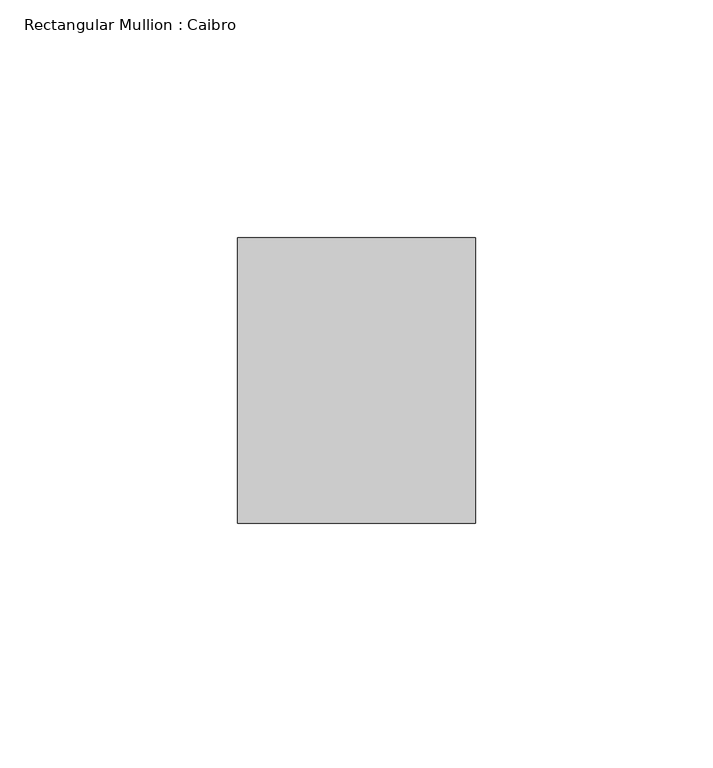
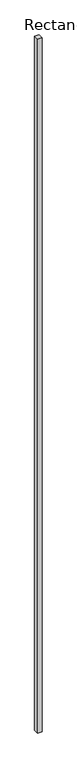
"""IFC4 building model written with IfcOpenShell, lengths in millimetres: member geometry, Rectangular Mullion : Caibro."""

import ifcopenshell
import ifcopenshell.guid

model = None  # the IFC model being written
_history = None  # IfcOwnerHistory: only IFC2X3 demands one
_inside = {}  # id of a spatial element -> (the spatial element, [elements in it])
_under = {}  # id of a project, library or spatial element -> (it, [spatial elements below it])
_declared = {}  # id of a project -> (the project, [libraries it declares])
_typed = {}  # id of a type object -> (the type object, [elements of that type])
_made_of = {}  # id of a material, layer set ... -> (it, [elements and type objects made of it])


def new_model(schema):
    """Start an empty IFC model of exactly this schema.

    Asked for "IFC4X3", IfcOpenShell would pick the latest addendum, in which some entities
    have other attributes; the version numbers below select the first issue.
    IFC2X3 requires an IfcOwnerHistory on every rooted entity: one is made here for all.
    """
    global model, _history
    if schema == "IFC4X3":
        model = ifcopenshell.file(schema_version=(4, 3, 0, 0))
    else:
        model = ifcopenshell.file(schema=schema)
    _inside.clear()
    _under.clear()
    _declared.clear()
    _typed.clear()
    _made_of.clear()
    _history = None
    if model.schema == "IFC2X3":
        org = make("IfcOrganization", Name="unknown")
        user = make(
            "IfcPersonAndOrganization",
            ThePerson=make("IfcPerson", FamilyName="unknown"),
            TheOrganization=org,
        )
        app = make(
            "IfcApplication",
            ApplicationDeveloper=org,
            Version="unknown",
            ApplicationFullName="unknown",
            ApplicationIdentifier="unknown",
        )
        _history = make(
            "IfcOwnerHistory",
            OwningUser=user,
            OwningApplication=app,
            ChangeAction="ADDED",
            CreationDate=0,
        )
    return model


def make(cls, **values):
    """One entity of the class cls with the attributes given. An attribute that is None is left unset."""
    return model.create_entity(
        cls, **{name: value for name, value in values.items() if value is not None}
    )


def rooted(cls, **values):
    """An entity with a GlobalId (a new one), such as an element, a storey or a relation."""
    return make(cls, GlobalId=ifcopenshell.guid.new(), OwnerHistory=_history, **values)


def si_unit(unit_type, name, prefix=None):
    """IfcSIUnit, for example si_unit("LENGTHUNIT", "METRE", prefix="MILLI")."""
    return make("IfcSIUnit", UnitType=unit_type, Prefix=prefix, Name=name)


def assignment(units):
    """IfcUnitAssignment: the units of a project."""
    return None if units is None else make("IfcUnitAssignment", Units=units)


def point(xyz):
    """IfcCartesianPoint."""
    return None if xyz is None else make("IfcCartesianPoint", Coordinates=xyz)


def direction(xyz):
    """IfcDirection."""
    return None if xyz is None else make("IfcDirection", DirectionRatios=xyz)


def frame(location, z_axis=None, x_axis=None):
    """IfcAxis2Placement3D, a coordinate frame: its origin and axes. An axis left out is left unset."""
    return make(
        "IfcAxis2Placement3D",
        Location=point(location),
        Axis=direction(z_axis),
        RefDirection=direction(x_axis),
    )


def origin():
    """The frame at (0, 0, 0) with its axes left unset."""
    return frame((0.0, 0.0, 0.0))


def place(relative_to, where):
    """IfcLocalPlacement: puts the frame where relative to a parent placement (None: the world)."""
    return make(
        "IfcLocalPlacement", PlacementRelTo=relative_to, RelativePlacement=where
    )


def context(
    kind, dimensions, precision=None, world=None, true_north=None, identifier=None
):
    """IfcGeometricRepresentationContext, for example the 3D "Model" context."""
    return make(
        "IfcGeometricRepresentationContext",
        ContextIdentifier=identifier,
        ContextType=kind,
        CoordinateSpaceDimension=dimensions,
        Precision=precision,
        WorldCoordinateSystem=world,
        TrueNorth=true_north,
    )


def project(units=None, contexts=None):
    """IfcProject with its units and contexts."""
    return rooted(
        "IfcProject",
        Name="project",
        RepresentationContexts=contexts,
        UnitsInContext=assignment(units),
    )


def spatial(cls, under=None, at=None, **own):
    """A site, building, storey or space (cls), placed at a placement, below another one or the project."""
    s = rooted(cls, ObjectPlacement=at, **own)
    if under is not None:
        _under.setdefault(under.id(), (under, []))[1].append(s)
    return s


def polyline(points):
    """IfcPolyline through the points."""
    return make("IfcPolyline", Points=[point(p) for p in points])


def outline(outer, holes=None, kind="AREA"):
    """IfcArbitraryClosedProfileDef: a profile drawn as a closed curve; with holes, ...WithVoids."""
    if holes is None:
        return make("IfcArbitraryClosedProfileDef", ProfileType=kind, OuterCurve=outer)
    return make(
        "IfcArbitraryProfileDefWithVoids",
        ProfileType=kind,
        OuterCurve=outer,
        InnerCurves=holes,
    )


def extrude(swept, where, along, depth):
    """IfcExtrudedAreaSolid: the profile swept, set in the frame where, extruded along a direction by depth."""
    return make(
        "IfcExtrudedAreaSolid",
        SweptArea=swept,
        Position=where,
        ExtrudedDirection=direction(along),
        Depth=depth,
    )


def shape(context_of_items, identifier, shape_type, items):
    """IfcShapeRepresentation: the items that make up one representation, for example the "Body"."""
    return make(
        "IfcShapeRepresentation",
        ContextOfItems=context_of_items,
        RepresentationIdentifier=identifier,
        RepresentationType=shape_type,
        Items=items,
    )


def source(mapping_origin, context_of_items, identifier, shape_type, items):
    """IfcRepresentationMap: a shape defined once, which mapped items show again and again."""
    return make(
        "IfcRepresentationMap",
        MappingOrigin=mapping_origin,
        MappedRepresentation=shape(context_of_items, identifier, shape_type, items),
    )


def transform(
    local_origin,
    x_axis=None,
    y_axis=None,
    z_axis=None,
    scale=None,
    scale2=None,
    scale3=None,
    uniform=True,
):
    """IfcCartesianTransformationOperator3D, or its non-uniform kind. x_axis, y_axis, z_axis: its Axis1, 2, 3."""
    if uniform:
        return make(
            "IfcCartesianTransformationOperator3D",
            Axis1=direction(x_axis),
            Axis2=direction(y_axis),
            LocalOrigin=point(local_origin),
            Scale=scale,
            Axis3=direction(z_axis),
        )
    return make(
        "IfcCartesianTransformationOperator3DnonUniform",
        Axis1=direction(x_axis),
        Axis2=direction(y_axis),
        LocalOrigin=point(local_origin),
        Scale=scale,
        Axis3=direction(z_axis),
        Scale2=scale2,
        Scale3=scale3,
    )


def mapped(mapping_source, mapping_target):
    """IfcMappedItem: shows the shape of a source again, moved by a transform."""
    return make(
        "IfcMappedItem", MappingSource=mapping_source, MappingTarget=mapping_target
    )


def made_of(thing, what):
    """Note that an element or type object is made of a material, layer set ...; save() writes the relation."""
    if what is not None:
        _made_of.setdefault(what.id(), (what, []))[1].append(thing)
    return thing


def element(
    cls,
    number,
    at=None,
    inside=None,
    cuts=None,
    type_object=None,
    material=None,
    context=None,
    identifier="Body",
    shape_type=None,
    held_by="IfcProductDefinitionShape",
    body=None,
    shapes=None,
    **own,
):
    """One element of the class cls, such as IfcWall. Its Tag is "e" and its number.

    at: its placement. inside: the storey or other place that contains it. cuts: it is an
    opening in that element (IfcRelVoidsElement). A single representation is given by context,
    identifier, shape_type and body (its items); several are given by shapes. held_by: the class
    of the entity that holds the representations. save() writes the other relations.
    """
    e = rooted(cls, Tag="e%d" % number, ObjectPlacement=at, **own)
    if body is not None:
        shapes = [shape(context, identifier, shape_type, body)]
    if shapes is not None:
        e.Representation = make(held_by, Representations=shapes)
    if inside is not None:
        _inside.setdefault(inside.id(), (inside, []))[1].append(e)
    if cuts is not None:
        rooted(
            "IfcRelVoidsElement", RelatingBuildingElement=cuts, RelatedOpeningElement=e
        )
    if type_object is not None:
        _typed.setdefault(type_object.id(), (type_object, []))[1].append(e)
    return made_of(e, material)


def aggregate(whole, parts):
    """IfcRelAggregates: a whole, such as a stair, and the parts it consists of."""
    return rooted("IfcRelAggregates", RelatingObject=whole, RelatedObjects=parts)


def save(model, path):
    """Write the relations noted so far, then the file.

    IfcRelAggregates (storeys below a building ...), IfcRelContainedInSpatialStructure (elements
    in a storey), IfcRelDefinesByType, IfcRelAssociatesMaterial and IfcRelDeclares: one each for
    every whole, place, type object, material and project.
    """
    for whole, parts in _under.values():
        aggregate(whole, parts)
    for where, things in _inside.values():
        rooted(
            "IfcRelContainedInSpatialStructure",
            RelatedElements=things,
            RelatingStructure=where,
        )
    for kind, things in _typed.values():
        rooted("IfcRelDefinesByType", RelatedObjects=things, RelatingType=kind)
    for what, things in _made_of.values():
        rooted("IfcRelAssociatesMaterial", RelatedObjects=things, RelatingMaterial=what)
    for by, libraries in _declared.values():
        rooted("IfcRelDeclares", RelatingContext=by, RelatedDefinitions=libraries)
    model.write(path)


def rectangular_mullion_caibro_00db0e03(model_context):
    return source(origin(), model_context, "Body", "SweptSolid", [
        extrude(outline(polyline([(-50.0, -60.0), (-50.0, 0.0), (0.0, 0.0), (0.0, -60.0), (-50.0, -60.0)])), frame((0.0, 0.0, -8494.3429448), z_axis=(0.0, 0.0, 1.0), x_axis=(1.0, 0.0, 0.0)), (0.0, 0.0, 1.0), 8494.3429448),
    ])


if __name__ == "__main__":
    model = new_model("IFC4")
    model_context = context("Model", 3, world=origin())
    ifc_project = project(units=[si_unit("LENGTHUNIT", "METRE", prefix="MILLI")], contexts=[model_context])
    site = spatial("IfcSite", under=ifc_project)
    building = spatial("IfcBuilding", under=site)
    placement = place(None, origin())
    rectangular_mullion_caibro_shape = rectangular_mullion_caibro_00db0e03(model_context)
    element("IfcMember", 1, ObjectType="Rectangular Mullion : Caibro", at=placement, inside=building, context=model_context, shape_type="MappedRepresentation", body=[
        mapped(rectangular_mullion_caibro_shape, transform((0.0, 0.0, 0.0), x_axis=(1.0, 0.0, 0.0), y_axis=(0.0, 1.0, 0.0), z_axis=(0.0, 0.0, 1.0))),
    ])
    save(model, "model.ifc")
